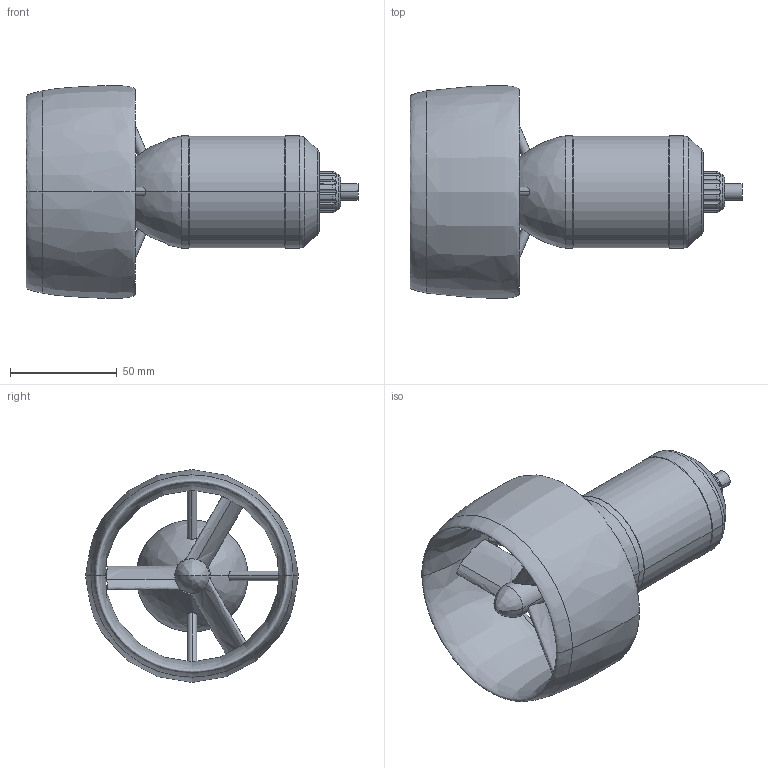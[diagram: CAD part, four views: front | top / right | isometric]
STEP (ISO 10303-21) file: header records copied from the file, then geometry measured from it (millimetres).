
FILE_DESCRIPTION (( 'STEP AP203' ), '1' );
FILE_NAME ('DW10.STEP', '2024-01-26T01:35:13', ( '微软用户' ), ( '微软中国' ), 'SwSTEP 2.0', 'SolidWorks 2022', '' );
FILE_SCHEMA (( 'CONFIG_CONTROL_DESIGN' ));
Length unit declared in the file: millimetre
Products named in the file (1): DW10
Bounding box: 155.84 x 99.84 x 99.83 mm (x, y, z)
Volume: 298899.7 mm3; surface area: 55638.8 mm2
Topology: 1 solids, 1 shells, 97 faces, 249 edges, 154 vertices
Faces by surface type: cylinder 52, torus 18, bspline 14, cone 8, plane 5
Entity records: 4543 total; most frequent: CARTESIAN_POINT 2243, ORIENTED_EDGE 494, DIRECTION 430, EDGE_CURVE 247, AXIS2_PLACEMENT_3D 183, VERTEX_POINT 154, EDGE_LOOP 107, CIRCLE 99
